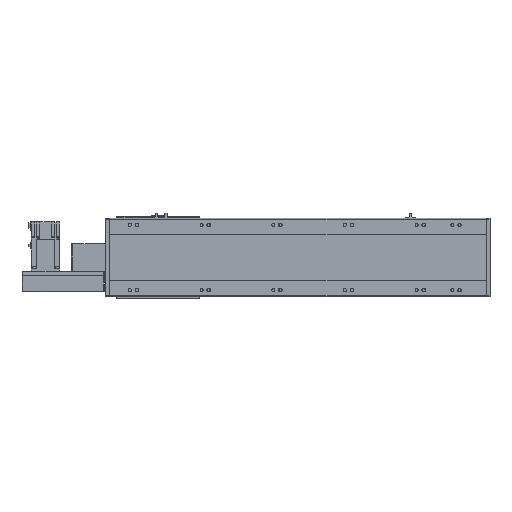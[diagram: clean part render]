
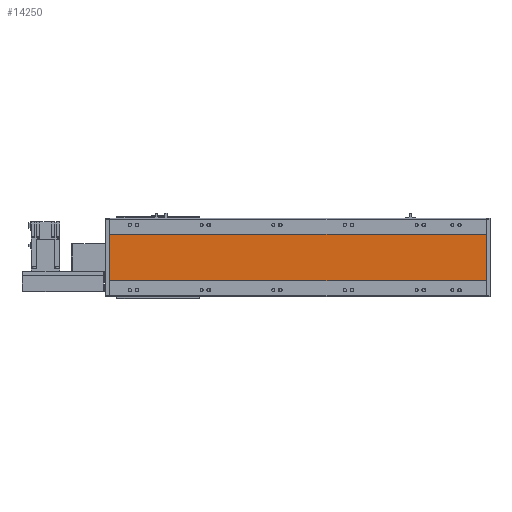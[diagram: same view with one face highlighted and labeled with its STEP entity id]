
A CAD part, front view. The second image highlights one B-rep face of the part: STEP entity #14250.
In plain terms, the highlighted planar face has unit normal (0, -1, 0).
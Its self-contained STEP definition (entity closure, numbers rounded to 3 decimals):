
#3157=ORIENTED_EDGE('',*,*,#6378,.T.);
#3158=ORIENTED_EDGE('',*,*,#6379,.F.);
#3159=ORIENTED_EDGE('',*,*,#6380,.F.);
#3160=ORIENTED_EDGE('',*,*,#6376,.T.);
#6376=EDGE_CURVE('',#8109,#8108,#9386,.T.);
#6378=EDGE_CURVE('',#8108,#8110,#9387,.T.);
#6379=EDGE_CURVE('',#8111,#8110,#9388,.T.);
#6380=EDGE_CURVE('',#8109,#8111,#9389,.T.);
#8108=VERTEX_POINT('',#23483);
#8109=VERTEX_POINT('',#23485);
#8110=VERTEX_POINT('',#23489);
#8111=VERTEX_POINT('',#23491);
#9386=LINE('',#23484,#10727);
#9387=LINE('',#23488,#10728);
#9388=LINE('',#23490,#10729);
#9389=LINE('',#23492,#10730);
#10727=VECTOR('',#18767,1000.);
#10728=VECTOR('',#18772,1000.);
#10729=VECTOR('',#18773,1000.);
#10730=VECTOR('',#18774,1000.);
#11674=EDGE_LOOP('',(#3157,#3158,#3159,#3160));
#12751=FACE_BOUND('',#11674,.T.);
#13597=PLANE('',#15538);
#14250=ADVANCED_FACE('',(#12751),#13597,.F.);
#15538=AXIS2_PLACEMENT_3D('',#23487,#18770,#18771);
#18767=DIRECTION('',(-1.,0.,0.));
#18770=DIRECTION('',(0.,1.,0.));
#18771=DIRECTION('',(0.,0.,1.));
#18772=DIRECTION('',(0.,0.,-1.));
#18773=DIRECTION('',(-1.,0.,0.));
#18774=DIRECTION('',(0.,0.,-1.));
#23483=CARTESIAN_POINT('',(12.,1.,64.294));
#23484=CARTESIAN_POINT('',(1064.,1.,64.294));
#23485=CARTESIAN_POINT('',(1064.,1.,64.294));
#23487=CARTESIAN_POINT('',(1064.,1.,64.294));
#23488=CARTESIAN_POINT('',(12.,1.,64.294));
#23489=CARTESIAN_POINT('',(12.,1.,-64.294));
#23490=CARTESIAN_POINT('',(1064.,1.,-64.294));
#23491=CARTESIAN_POINT('',(1064.,1.,-64.294));
#23492=CARTESIAN_POINT('',(1064.,1.,64.294));
